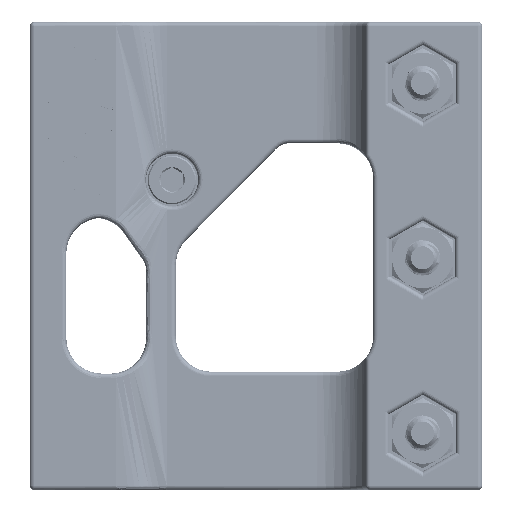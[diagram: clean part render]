
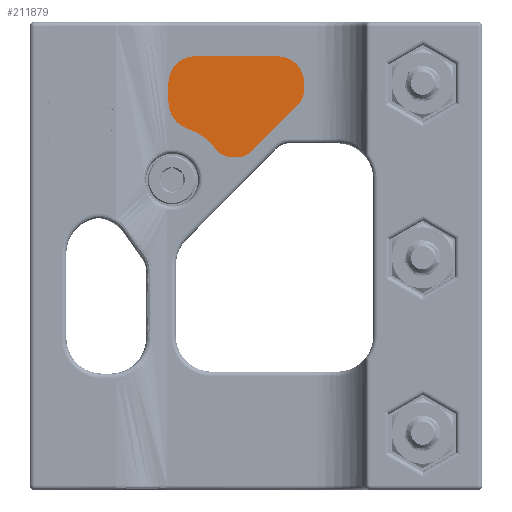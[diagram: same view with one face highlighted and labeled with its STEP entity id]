
A CAD part, left-side view. The second image highlights one B-rep face of the part: STEP entity #211879.
In plain terms, the highlighted planar face has unit normal (-1, 0, 0).
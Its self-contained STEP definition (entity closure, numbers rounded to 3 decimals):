
#12000=PLANE('',#223997);
#23391=FACE_OUTER_BOUND('',#36193,.T.);
#36193=EDGE_LOOP('',(#194365,#194366,#194367,#194368,#194369,#194370,#194371,
#194372,#194373,#194374,#194375,#194376));
#40863=CIRCLE('',#223998,6.036);
#40864=CIRCLE('',#223999,2.5);
#40865=CIRCLE('',#224000,2.5);
#40866=CIRCLE('',#224001,2.);
#40867=CIRCLE('',#224002,3.);
#40868=CIRCLE('',#224003,3.);
#40869=CIRCLE('',#224004,3.25);
#66634=LINE('',#562949,#82222);
#66635=LINE('',#562953,#82223);
#66636=LINE('',#562957,#82224);
#66637=LINE('',#562961,#82225);
#66638=LINE('',#562965,#82226);
#82222=VECTOR('',#261524,10.);
#82223=VECTOR('',#261527,10.);
#82224=VECTOR('',#261530,10.);
#82225=VECTOR('',#261533,10.);
#82226=VECTOR('',#261536,10.);
#102829=VERTEX_POINT('',#562943);
#102830=VERTEX_POINT('',#562944);
#102831=VERTEX_POINT('',#562946);
#102832=VERTEX_POINT('',#562948);
#102833=VERTEX_POINT('',#562950);
#102834=VERTEX_POINT('',#562952);
#102835=VERTEX_POINT('',#562954);
#102836=VERTEX_POINT('',#562956);
#102837=VERTEX_POINT('',#562958);
#102838=VERTEX_POINT('',#562960);
#102839=VERTEX_POINT('',#562962);
#102840=VERTEX_POINT('',#562964);
#133628=EDGE_CURVE('',#102829,#102830,#40863,.T.);
#133629=EDGE_CURVE('',#102831,#102829,#40864,.T.);
#133630=EDGE_CURVE('',#102832,#102831,#66634,.T.);
#133631=EDGE_CURVE('',#102833,#102832,#40865,.T.);
#133632=EDGE_CURVE('',#102834,#102833,#66635,.T.);
#133633=EDGE_CURVE('',#102835,#102834,#40866,.T.);
#133634=EDGE_CURVE('',#102836,#102835,#66636,.T.);
#133635=EDGE_CURVE('',#102837,#102836,#40867,.T.);
#133636=EDGE_CURVE('',#102838,#102837,#66637,.T.);
#133637=EDGE_CURVE('',#102839,#102838,#40868,.T.);
#133638=EDGE_CURVE('',#102840,#102839,#66638,.T.);
#133639=EDGE_CURVE('',#102830,#102840,#40869,.T.);
#194365=ORIENTED_EDGE('',*,*,#133628,.F.);
#194366=ORIENTED_EDGE('',*,*,#133629,.F.);
#194367=ORIENTED_EDGE('',*,*,#133630,.F.);
#194368=ORIENTED_EDGE('',*,*,#133631,.F.);
#194369=ORIENTED_EDGE('',*,*,#133632,.F.);
#194370=ORIENTED_EDGE('',*,*,#133633,.F.);
#194371=ORIENTED_EDGE('',*,*,#133634,.F.);
#194372=ORIENTED_EDGE('',*,*,#133635,.F.);
#194373=ORIENTED_EDGE('',*,*,#133636,.F.);
#194374=ORIENTED_EDGE('',*,*,#133637,.F.);
#194375=ORIENTED_EDGE('',*,*,#133638,.F.);
#194376=ORIENTED_EDGE('',*,*,#133639,.F.);
#211879=ADVANCED_FACE('',(#23391),#12000,.T.);
#223997=AXIS2_PLACEMENT_3D('',#562942,#261518,#261519);
#223998=AXIS2_PLACEMENT_3D('',#562945,#261520,#261521);
#223999=AXIS2_PLACEMENT_3D('',#562947,#261522,#261523);
#224000=AXIS2_PLACEMENT_3D('',#562951,#261525,#261526);
#224001=AXIS2_PLACEMENT_3D('',#562955,#261528,#261529);
#224002=AXIS2_PLACEMENT_3D('',#562959,#261531,#261532);
#224003=AXIS2_PLACEMENT_3D('',#562963,#261534,#261535);
#224004=AXIS2_PLACEMENT_3D('',#562966,#261537,#261538);
#261518=DIRECTION('center_axis',(-1.,0.,0.));
#261519=DIRECTION('ref_axis',(0.,0.,1.));
#261520=DIRECTION('center_axis',(-1.,0.,0.));
#261521=DIRECTION('ref_axis',(0.,-0.306,0.952));
#261522=DIRECTION('center_axis',(1.,0.,0.));
#261523=DIRECTION('ref_axis',(0.,0.,-1.));
#261524=DIRECTION('',(0.,1.,0.));
#261525=DIRECTION('center_axis',(1.,0.,0.));
#261526=DIRECTION('ref_axis',(0.,-0.712,-0.703));
#261527=DIRECTION('',(0.,0.703,-0.712));
#261528=DIRECTION('center_axis',(1.,0.,0.));
#261529=DIRECTION('ref_axis',(0.,-1.,0.));
#261530=DIRECTION('',(0.,0.,-1.));
#261531=DIRECTION('center_axis',(1.,0.,0.));
#261532=DIRECTION('ref_axis',(0.,0.,1.));
#261533=DIRECTION('',(0.,-1.,0.));
#261534=DIRECTION('center_axis',(1.,0.,0.));
#261535=DIRECTION('ref_axis',(0.,1.,0.));
#261536=DIRECTION('',(0.,0.,1.));
#261537=DIRECTION('center_axis',(1.,0.,0.));
#261538=DIRECTION('ref_axis',(0.,0.306,-0.952));
#562942=CARTESIAN_POINT('Origin',(-27.017,-9.016,-27.987));
#562943=CARTESIAN_POINT('',(-27.017,-6.591,-15.643));
#562944=CARTESIAN_POINT('',(-27.017,-3.568,-13.462));
#562945=CARTESIAN_POINT('Origin',(-27.017,-1.721,-19.209));
#562946=CARTESIAN_POINT('',(-27.017,-8.609,-16.666));
#562947=CARTESIAN_POINT('Origin',(-27.017,-8.609,-14.166));
#562948=CARTESIAN_POINT('',(-27.017,-8.99,-16.666));
#562949=CARTESIAN_POINT('',(-27.017,-8.812,-16.666));
#562950=CARTESIAN_POINT('',(-27.017,-10.769,-15.923));
#562951=CARTESIAN_POINT('Origin',(-27.017,-8.99,-14.166));
#562952=CARTESIAN_POINT('',(-27.017,-16.059,-10.565));
#562953=CARTESIAN_POINT('',(-27.017,-7.321,-19.415));
#562954=CARTESIAN_POINT('',(-27.017,-16.635,-9.16));
#562955=CARTESIAN_POINT('Origin',(-27.017,-14.635,-9.16));
#562956=CARTESIAN_POINT('',(-27.017,-16.635,-8.245));
#562957=CARTESIAN_POINT('',(-27.017,-16.635,-18.573));
#562958=CARTESIAN_POINT('',(-27.017,-13.635,-5.245));
#562959=CARTESIAN_POINT('Origin',(-27.017,-13.635,-8.245));
#562960=CARTESIAN_POINT('',(-27.017,-4.312,-5.245));
#562961=CARTESIAN_POINT('',(-27.017,-11.326,-5.245));
#562962=CARTESIAN_POINT('',(-27.017,-1.312,-8.245));
#562963=CARTESIAN_POINT('Origin',(-27.017,-4.312,-8.245));
#562964=CARTESIAN_POINT('',(-27.017,-1.312,-10.368));
#562965=CARTESIAN_POINT('',(-27.017,-1.312,-18.116));
#562966=CARTESIAN_POINT('Origin',(-27.017,-4.562,-10.368));
